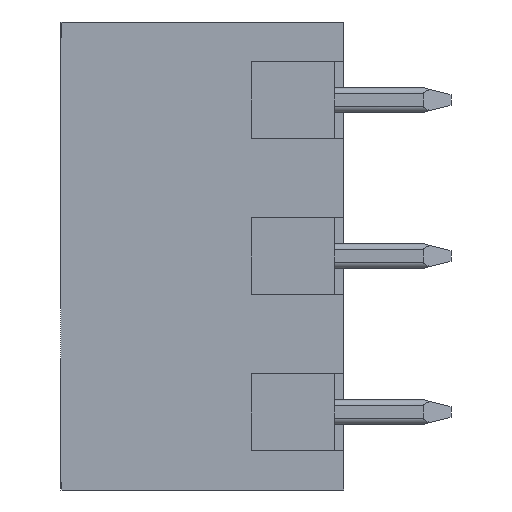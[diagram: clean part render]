
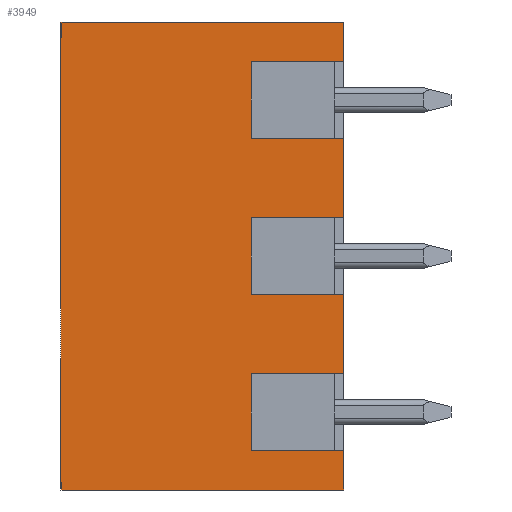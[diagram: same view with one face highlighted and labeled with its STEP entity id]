
A CAD part, left-side view. The second image highlights one B-rep face of the part: STEP entity #3949.
In plain terms, the highlighted planar face has unit normal (-1, 0, 0).
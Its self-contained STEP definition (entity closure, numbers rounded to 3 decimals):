
#211=DIRECTION('',(0.,0.,-1.));
#212=VECTOR('',#211,15.24);
#213=CARTESIAN_POINT('',(0.073,12.7,-4.933));
#214=LINE('',#213,#212);
#410=DIRECTION('',(0.,0.,-1.));
#411=VECTOR('',#410,2.5);
#412=CARTESIAN_POINT('',(0.073,6.5,-16.383));
#413=LINE('',#412,#411);
#414=DIRECTION('',(0.,-1.,0.));
#415=VECTOR('',#414,3.);
#416=CARTESIAN_POINT('',(0.073,6.5,-18.883));
#417=LINE('',#416,#415);
#418=DIRECTION('',(0.,0.,-1.));
#419=VECTOR('',#418,1.29);
#420=CARTESIAN_POINT('',(0.073,3.5,-18.883));
#421=LINE('',#420,#419);
#422=DIRECTION('',(0.,1.,0.));
#423=VECTOR('',#422,9.2);
#424=CARTESIAN_POINT('',(0.073,3.5,-20.173));
#425=LINE('',#424,#423);
#426=DIRECTION('',(0.,0.,-1.));
#427=VECTOR('',#426,1.29);
#428=CARTESIAN_POINT('',(0.073,3.5,-4.933));
#429=LINE('',#428,#427);
#430=DIRECTION('',(0.,0.,-1.));
#431=VECTOR('',#430,2.5);
#432=CARTESIAN_POINT('',(0.073,6.5,-6.223));
#433=LINE('',#432,#431);
#434=DIRECTION('',(0.,-1.,0.));
#435=VECTOR('',#434,3.);
#436=CARTESIAN_POINT('',(0.073,6.5,-8.723));
#437=LINE('',#436,#435);
#438=DIRECTION('',(0.,0.,-1.));
#439=VECTOR('',#438,2.5);
#440=CARTESIAN_POINT('',(0.073,6.5,-11.303));
#441=LINE('',#440,#439);
#442=DIRECTION('',(0.,-1.,0.));
#443=VECTOR('',#442,3.);
#444=CARTESIAN_POINT('',(0.073,6.5,-13.803));
#445=LINE('',#444,#443);
#462=DIRECTION('',(0.,0.,1.));
#463=VECTOR('',#462,2.58);
#464=CARTESIAN_POINT('',(0.073,3.5,-16.383));
#465=LINE('',#464,#463);
#474=DIRECTION('',(0.,0.,1.));
#475=VECTOR('',#474,2.58);
#476=CARTESIAN_POINT('',(0.073,3.5,-11.303));
#477=LINE('',#476,#475);
#556=DIRECTION('',(0.,1.,0.));
#557=VECTOR('',#556,9.2);
#558=CARTESIAN_POINT('',(0.073,3.5,-4.933));
#559=LINE('',#558,#557);
#804=DIRECTION('',(0.,-1.,0.));
#805=VECTOR('',#804,3.);
#806=CARTESIAN_POINT('',(0.073,6.5,-11.303));
#807=LINE('',#806,#805);
#864=DIRECTION('',(0.,-1.,0.));
#865=VECTOR('',#864,3.);
#866=CARTESIAN_POINT('',(0.073,6.5,-6.223));
#867=LINE('',#866,#865);
#900=DIRECTION('',(0.,-1.,0.));
#901=VECTOR('',#900,3.);
#902=CARTESIAN_POINT('',(0.073,6.5,-16.383));
#903=LINE('',#902,#901);
#2683=CARTESIAN_POINT('',(0.073,3.5,-20.173));
#2684=VERTEX_POINT('',#2683);
#2685=CARTESIAN_POINT('',(0.073,3.5,-18.883));
#2686=VERTEX_POINT('',#2685);
#2691=CARTESIAN_POINT('',(0.073,3.5,-16.383));
#2692=VERTEX_POINT('',#2691);
#2693=CARTESIAN_POINT('',(0.073,3.5,-13.803));
#2694=VERTEX_POINT('',#2693);
#2699=CARTESIAN_POINT('',(0.073,3.5,-11.303));
#2700=VERTEX_POINT('',#2699);
#2701=CARTESIAN_POINT('',(0.073,3.5,-8.723));
#2702=VERTEX_POINT('',#2701);
#2707=CARTESIAN_POINT('',(0.073,3.5,-6.223));
#2708=VERTEX_POINT('',#2707);
#2709=CARTESIAN_POINT('',(0.073,3.5,-4.933));
#2710=VERTEX_POINT('',#2709);
#2751=CARTESIAN_POINT('',(0.073,12.7,-4.933));
#2752=CARTESIAN_POINT('',(0.073,12.7,-20.173));
#2753=VERTEX_POINT('',#2751);
#2754=VERTEX_POINT('',#2752);
#2847=CARTESIAN_POINT('',(0.073,6.5,-16.383));
#2848=VERTEX_POINT('',#2847);
#2849=CARTESIAN_POINT('',(0.073,6.5,-18.883));
#2850=VERTEX_POINT('',#2849);
#2851=CARTESIAN_POINT('',(0.073,6.5,-6.223));
#2852=VERTEX_POINT('',#2851);
#2853=CARTESIAN_POINT('',(0.073,6.5,-8.723));
#2854=VERTEX_POINT('',#2853);
#2855=CARTESIAN_POINT('',(0.073,6.5,-11.303));
#2856=VERTEX_POINT('',#2855);
#2857=CARTESIAN_POINT('',(0.073,6.5,-13.803));
#2858=VERTEX_POINT('',#2857);
#3911=CARTESIAN_POINT('',(0.073,12.7,-40.493));
#3912=DIRECTION('',(-1.,0.,0.));
#3913=DIRECTION('',(0.,-1.,0.));
#3914=AXIS2_PLACEMENT_3D('',#3911,#3912,#3913);
#3915=PLANE('',#3914);
#3917=ORIENTED_EDGE('',*,*,#3916,.F.);
#3919=ORIENTED_EDGE('',*,*,#3918,.F.);
#3921=ORIENTED_EDGE('',*,*,#3920,.T.);
#3923=ORIENTED_EDGE('',*,*,#3922,.T.);
#3925=ORIENTED_EDGE('',*,*,#3924,.T.);
#3927=ORIENTED_EDGE('',*,*,#3926,.T.);
#3928=ORIENTED_EDGE('',*,*,#3799,.F.);
#3930=ORIENTED_EDGE('',*,*,#3929,.F.);
#3932=ORIENTED_EDGE('',*,*,#3931,.T.);
#3934=ORIENTED_EDGE('',*,*,#3933,.F.);
#3936=ORIENTED_EDGE('',*,*,#3935,.T.);
#3938=ORIENTED_EDGE('',*,*,#3937,.T.);
#3940=ORIENTED_EDGE('',*,*,#3939,.F.);
#3942=ORIENTED_EDGE('',*,*,#3941,.F.);
#3944=ORIENTED_EDGE('',*,*,#3943,.T.);
#3946=ORIENTED_EDGE('',*,*,#3945,.T.);
#3947=EDGE_LOOP('',(#3917,#3919,#3921,#3923,#3925,#3927,#3928,#3930,#3932,#3934,
#3936,#3938,#3940,#3942,#3944,#3946));
#3948=FACE_OUTER_BOUND('',#3947,.F.);
#3949=ADVANCED_FACE('',(#3948),#3915,.T.);
#3799=EDGE_CURVE('',#2753,#2754,#214,.T.);
#3916=EDGE_CURVE('',#2692,#2694,#465,.T.);
#3918=EDGE_CURVE('',#2848,#2692,#903,.T.);
#3920=EDGE_CURVE('',#2848,#2850,#413,.T.);
#3922=EDGE_CURVE('',#2850,#2686,#417,.T.);
#3924=EDGE_CURVE('',#2686,#2684,#421,.T.);
#3926=EDGE_CURVE('',#2684,#2754,#425,.T.);
#3929=EDGE_CURVE('',#2710,#2753,#559,.T.);
#3931=EDGE_CURVE('',#2710,#2708,#429,.T.);
#3933=EDGE_CURVE('',#2852,#2708,#867,.T.);
#3935=EDGE_CURVE('',#2852,#2854,#433,.T.);
#3937=EDGE_CURVE('',#2854,#2702,#437,.T.);
#3939=EDGE_CURVE('',#2700,#2702,#477,.T.);
#3941=EDGE_CURVE('',#2856,#2700,#807,.T.);
#3943=EDGE_CURVE('',#2856,#2858,#441,.T.);
#3945=EDGE_CURVE('',#2858,#2694,#445,.T.);
